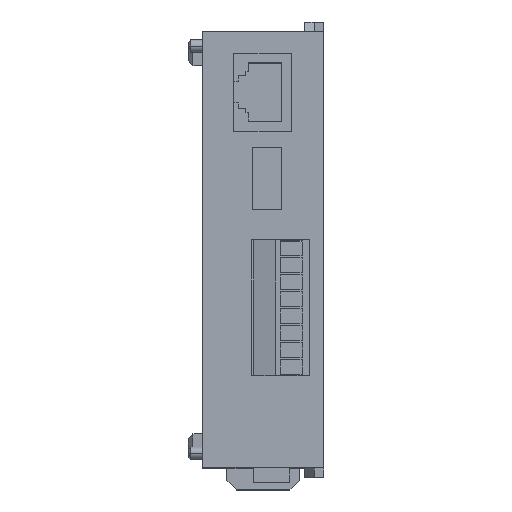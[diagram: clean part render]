
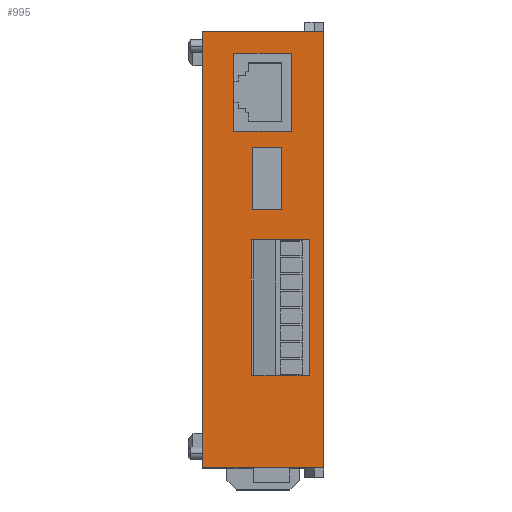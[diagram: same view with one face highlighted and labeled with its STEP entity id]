
A CAD part, top view. The second image highlights one B-rep face of the part: STEP entity #995.
In plain terms, the highlighted planar face has unit normal (0, 0, 1).
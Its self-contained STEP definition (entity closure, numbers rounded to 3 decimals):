
#460 = EDGE_CURVE ( 'NONE', #533, #462, #4011, .T. ) ;
#462 = VERTEX_POINT ( 'NONE', #4007 ) ;
#533 = VERTEX_POINT ( 'NONE', #4211 ) ;
#692 = VERTEX_POINT ( 'NONE', #4481 ) ;
#694 = EDGE_CURVE ( 'NONE', #692, #695, #4480, .T. ) ;
#695 = VERTEX_POINT ( 'NONE', #4476 ) ;
#773 = EDGE_CURVE ( 'NONE', #462, #692, #4695, .T. ) ;
#940 = EDGE_CURVE ( 'NONE', #695, #533, #5154, .T. ) ;
#971 = VERTEX_POINT ( 'NONE', #5197 ) ;
#972 = ORIENTED_EDGE ( 'NONE', *, *, #973, .F. ) ;
#973 = EDGE_CURVE ( 'NONE', #974, #971, #5196, .T. ) ;
#974 = VERTEX_POINT ( 'NONE', #5192 ) ;
#975 = ORIENTED_EDGE ( 'NONE', *, *, #1033, .T. ) ;
#976 = ORIENTED_EDGE ( 'NONE', *, *, #977, .T. ) ;
#977 = EDGE_CURVE ( 'NONE', #978, #979, #5251, .T. ) ;
#978 = VERTEX_POINT ( 'NONE', #5247 ) ;
#979 = VERTEX_POINT ( 'NONE', #5246 ) ;
#980 = ORIENTED_EDGE ( 'NONE', *, *, #981, .F. ) ;
#981 = EDGE_CURVE ( 'NONE', #982, #979, #5245, .T. ) ;
#982 = VERTEX_POINT ( 'NONE', #5241 ) ;
#983 = ORIENTED_EDGE ( 'NONE', *, *, #984, .F. ) ;
#984 = EDGE_CURVE ( 'NONE', #985, #982, #5240, .T. ) ;
#985 = VERTEX_POINT ( 'NONE', #5236 ) ;
#986 = ORIENTED_EDGE ( 'NONE', *, *, #987, .T. ) ;
#987 = EDGE_CURVE ( 'NONE', #985, #978, #5235, .T. ) ;
#988 = EDGE_LOOP ( 'NONE', ( #989, #990, #1049, #1050 ) ) ;
#989 = ORIENTED_EDGE ( 'NONE', *, *, #694, .F. ) ;
#990 = ORIENTED_EDGE ( 'NONE', *, *, #773, .F. ) ;
#995 = ADVANCED_FACE ( 'NONE', ( #5221, #5220, #5219, #5218 ), #5264, .F. ) ;
#996 = EDGE_LOOP ( 'NONE', ( #997, #998, #1000, #1001 ) ) ;
#997 = ORIENTED_EDGE ( 'NONE', *, *, #2642, .F. ) ;
#998 = ORIENTED_EDGE ( 'NONE', *, *, #999, .T. ) ;
#999 = EDGE_CURVE ( 'NONE', #2640, #2521, #5263, .T. ) ;
#1000 = ORIENTED_EDGE ( 'NONE', *, *, #2634, .F. ) ;
#1001 = ORIENTED_EDGE ( 'NONE', *, *, #1002, .F. ) ;
#1002 = EDGE_CURVE ( 'NONE', #2555, #2632, #5255, .T. ) ;
#1003 = EDGE_LOOP ( 'NONE', ( #976, #980, #983, #986 ) ) ;
#1033 = EDGE_CURVE ( 'NONE', #974, #1054, #5331, .T. ) ;
#1049 = ORIENTED_EDGE ( 'NONE', *, *, #460, .F. ) ;
#1050 = ORIENTED_EDGE ( 'NONE', *, *, #940, .F. ) ;
#1051 = EDGE_LOOP ( 'NONE', ( #1052, #1056, #972, #975 ) ) ;
#1052 = ORIENTED_EDGE ( 'NONE', *, *, #1053, .T. ) ;
#1053 = EDGE_CURVE ( 'NONE', #1054, #1055, #5344, .T. ) ;
#1054 = VERTEX_POINT ( 'NONE', #5340 ) ;
#1055 = VERTEX_POINT ( 'NONE', #5339 ) ;
#1056 = ORIENTED_EDGE ( 'NONE', *, *, #1057, .F. ) ;
#1057 = EDGE_CURVE ( 'NONE', #971, #1055, #5397, .T. ) ;
#2521 = VERTEX_POINT ( 'NONE', #10291 ) ;
#2555 = VERTEX_POINT ( 'NONE', #10342 ) ;
#2632 = VERTEX_POINT ( 'NONE', #10558 ) ;
#2634 = EDGE_CURVE ( 'NONE', #2632, #2521, #10556, .T. ) ;
#2640 = VERTEX_POINT ( 'NONE', #10583 ) ;
#2642 = EDGE_CURVE ( 'NONE', #2640, #2555, #10582, .T. ) ;
#4007 = CARTESIAN_POINT ( 'NONE',  ( -12.5, 45., 60. ) ) ;
#4008 = DIRECTION ( 'NONE',  ( 0., 1., 0. ) ) ;
#4009 = VECTOR ( 'NONE', #4008, 1000. ) ;
#4010 = CARTESIAN_POINT ( 'NONE',  ( -12.5, 45., 60. ) ) ;
#4011 = LINE ( 'NONE', #4010, #4009 ) ;
#4211 = CARTESIAN_POINT ( 'NONE',  ( -12.5, -45., 60. ) ) ;
#4476 = CARTESIAN_POINT ( 'NONE',  ( 12.5, -45., 60. ) ) ;
#4477 = DIRECTION ( 'NONE',  ( 0., -1., 0. ) ) ;
#4478 = VECTOR ( 'NONE', #4477, 1000. ) ;
#4479 = CARTESIAN_POINT ( 'NONE',  ( 12.5, 45., 60. ) ) ;
#4480 = LINE ( 'NONE', #4479, #4478 ) ;
#4481 = CARTESIAN_POINT ( 'NONE',  ( 12.5, 45., 60. ) ) ;
#4692 = DIRECTION ( 'NONE',  ( 1., 0., 0. ) ) ;
#4693 = VECTOR ( 'NONE', #4692, 1000. ) ;
#4694 = CARTESIAN_POINT ( 'NONE',  ( 12.5, 45., 60. ) ) ;
#4695 = LINE ( 'NONE', #4694, #4693 ) ;
#5151 = DIRECTION ( 'NONE',  ( -1., 0., 0. ) ) ;
#5152 = VECTOR ( 'NONE', #5151, 1000. ) ;
#5153 = CARTESIAN_POINT ( 'NONE',  ( 12.5, -45., 60. ) ) ;
#5154 = LINE ( 'NONE', #5153, #5152 ) ;
#5192 = CARTESIAN_POINT ( 'NONE',  ( -2.3, 21., 60. ) ) ;
#5193 = DIRECTION ( 'NONE',  ( 0., -1., 0. ) ) ;
#5194 = VECTOR ( 'NONE', #5193, 1000. ) ;
#5195 = CARTESIAN_POINT ( 'NONE',  ( -2.3, 0., 60. ) ) ;
#5196 = LINE ( 'NONE', #5195, #5194 ) ;
#5197 = CARTESIAN_POINT ( 'NONE',  ( -2.3, 8.2, 60. ) ) ;
#5218 = FACE_BOUND ( 'NONE', #1051, .T. ) ;
#5219 = FACE_OUTER_BOUND ( 'NONE', #988, .T. ) ;
#5220 = FACE_BOUND ( 'NONE', #1003, .T. ) ;
#5221 = FACE_BOUND ( 'NONE', #996, .T. ) ;
#5232 = DIRECTION ( 'NONE',  ( 1., 0., 0. ) ) ;
#5233 = VECTOR ( 'NONE', #5232, 1000. ) ;
#5234 = CARTESIAN_POINT ( 'NONE',  ( 72.796, 40.55, 60. ) ) ;
#5235 = LINE ( 'NONE', #5234, #5233 ) ;
#5236 = CARTESIAN_POINT ( 'NONE',  ( -6.1, 40.55, 60. ) ) ;
#5237 = DIRECTION ( 'NONE',  ( 0., -1., 0. ) ) ;
#5238 = VECTOR ( 'NONE', #5237, 1000. ) ;
#5239 = CARTESIAN_POINT ( 'NONE',  ( -6.1, 0., 60. ) ) ;
#5240 = LINE ( 'NONE', #5239, #5238 ) ;
#5241 = CARTESIAN_POINT ( 'NONE',  ( -6.1, 24.45, 60. ) ) ;
#5242 = DIRECTION ( 'NONE',  ( 1., 0., 0. ) ) ;
#5243 = VECTOR ( 'NONE', #5242, 1000. ) ;
#5244 = CARTESIAN_POINT ( 'NONE',  ( 72.796, 24.45, 60. ) ) ;
#5245 = LINE ( 'NONE', #5244, #5243 ) ;
#5246 = CARTESIAN_POINT ( 'NONE',  ( 5.8, 24.45, 60. ) ) ;
#5247 = CARTESIAN_POINT ( 'NONE',  ( 5.8, 40.55, 60. ) ) ;
#5248 = DIRECTION ( 'NONE',  ( 0., -1., 0. ) ) ;
#5249 = VECTOR ( 'NONE', #5248, 1000. ) ;
#5250 = CARTESIAN_POINT ( 'NONE',  ( 5.8, 0., 60. ) ) ;
#5251 = LINE ( 'NONE', #5250, #5249 ) ;
#5252 = DIRECTION ( 'NONE',  ( 0., -1., 0. ) ) ;
#5253 = VECTOR ( 'NONE', #5252, 1000. ) ;
#5254 = CARTESIAN_POINT ( 'NONE',  ( -1.2, 47.001, 60. ) ) ;
#5255 = LINE ( 'NONE', #5254, #5253 ) ;
#5256 = DIRECTION ( 'NONE',  ( 0., -1., 0. ) ) ;
#5257 = VECTOR ( 'NONE', #5256, 1000. ) ;
#5258 = CARTESIAN_POINT ( 'NONE',  ( 5.8, 47.001, 60. ) ) ;
#5259 = DIRECTION ( 'NONE',  ( -1., 0., 0. ) ) ;
#5260 = DIRECTION ( 'NONE',  ( 0., 0., -1. ) ) ;
#5261 = CARTESIAN_POINT ( 'NONE',  ( 12.5, -45., 60. ) ) ;
#5262 = AXIS2_PLACEMENT_3D ( 'NONE', #5261, #5260, #5259 ) ;
#5263 = LINE ( 'NONE', #5258, #5257 ) ;
#5264 = PLANE ( 'NONE',  #5262 ) ;
#5328 = DIRECTION ( 'NONE',  ( 1., 0., 0. ) ) ;
#5329 = VECTOR ( 'NONE', #5328, 1000. ) ;
#5330 = CARTESIAN_POINT ( 'NONE',  ( 72.796, 21., 60. ) ) ;
#5331 = LINE ( 'NONE', #5330, #5329 ) ;
#5339 = CARTESIAN_POINT ( 'NONE',  ( 3.8, 8.2, 60. ) ) ;
#5340 = CARTESIAN_POINT ( 'NONE',  ( 3.8, 21., 60. ) ) ;
#5341 = DIRECTION ( 'NONE',  ( 0., -1., 0. ) ) ;
#5342 = VECTOR ( 'NONE', #5341, 1000. ) ;
#5343 = CARTESIAN_POINT ( 'NONE',  ( 3.8, 0., 60. ) ) ;
#5344 = LINE ( 'NONE', #5343, #5342 ) ;
#5394 = DIRECTION ( 'NONE',  ( 1., 0., 0. ) ) ;
#5395 = VECTOR ( 'NONE', #5394, 1000. ) ;
#5396 = CARTESIAN_POINT ( 'NONE',  ( 72.796, 8.2, 60. ) ) ;
#5397 = LINE ( 'NONE', #5396, #5395 ) ;
#10291 = CARTESIAN_POINT ( 'NONE',  ( 5.8, -26., 60. ) ) ;
#10342 = CARTESIAN_POINT ( 'NONE',  ( -1.2, 2., 60. ) ) ;
#10553 = DIRECTION ( 'NONE',  ( 1., 0., 0. ) ) ;
#10554 = VECTOR ( 'NONE', #10553, 1000. ) ;
#10555 = CARTESIAN_POINT ( 'NONE',  ( -2.5, -26., 60. ) ) ;
#10556 = LINE ( 'NONE', #10555, #10554 ) ;
#10558 = CARTESIAN_POINT ( 'NONE',  ( -1.2, -26., 60. ) ) ;
#10579 = DIRECTION ( 'NONE',  ( -1., 0., 0. ) ) ;
#10580 = VECTOR ( 'NONE', #10579, 1000. ) ;
#10581 = CARTESIAN_POINT ( 'NONE',  ( -2.5, 2., 60. ) ) ;
#10582 = LINE ( 'NONE', #10581, #10580 ) ;
#10583 = CARTESIAN_POINT ( 'NONE',  ( 5.8, 2., 60. ) ) ;
